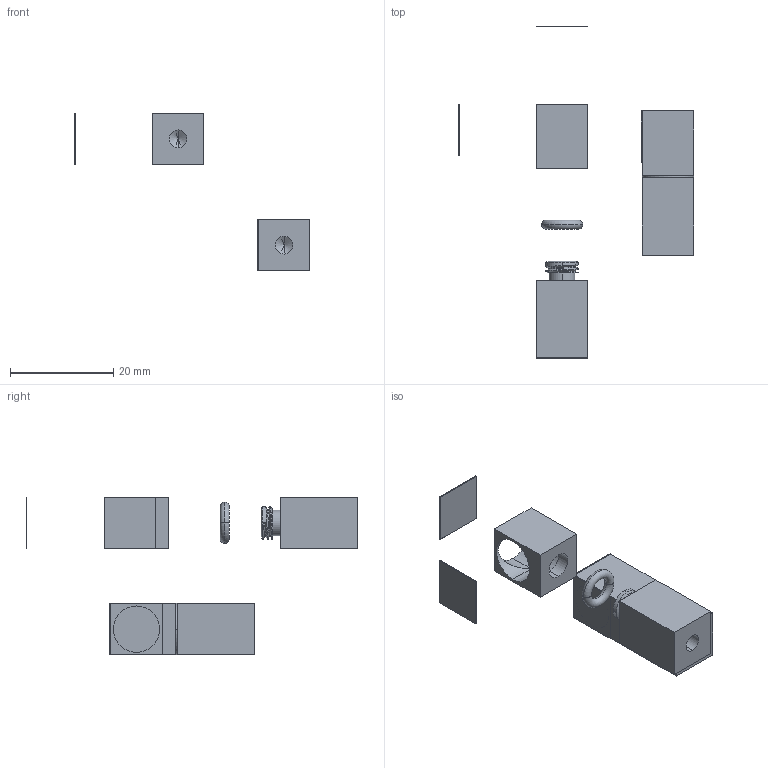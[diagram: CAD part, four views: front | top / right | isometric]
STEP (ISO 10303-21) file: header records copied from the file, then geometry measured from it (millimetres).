
FILE_DESCRIPTION (( 'STEP AP203' ), '1' );
FILE_NAME ('cuvette_assembled.STEP', '2023-03-24T23:00:58', ( '' ), ( '' ), 'SwSTEP 2.0', 'SolidWorks 2021', '' );
FILE_SCHEMA (( 'CONFIG_CONTROL_DESIGN' ));
Length unit declared in the file: millimetre
Products named in the file (6): flattened_oring; cuvette_top; cuvette_bottom2; cuvetteglass; cuvette_assembled; 1284N108_Soft Viton Fluoroelastomer O-Ring_1284N108
Assembly tree (10 placements, depth 2):
  cuvette_assembled
    cuvette_bottom2  x2
    cuvette_top  x2
    cuvetteglass  x4
    flattened_oring
    1284N108_Soft Viton Fluoroelastomer O-Ring_1284N108
Bounding box: 45.74 x 64.45 x 30.65 mm (x, y, z)
Volume: 4205.5 mm3; surface area: 4831.5 mm2
Topology: 10 solids, 10 shells, 112 faces, 248 edges, 156 vertices
Faces by surface type: plane 58, cylinder 36, cone 8, bspline 6, torus 4
Entity records: 2638 total; most frequent: CARTESIAN_POINT 698, DIRECTION 261, ORIENTED_EDGE 234, EDGE_CURVE 117, AXIS2_PLACEMENT_3D 101, VERTEX_POINT 74, EDGE_LOOP 61, VECTOR 59
